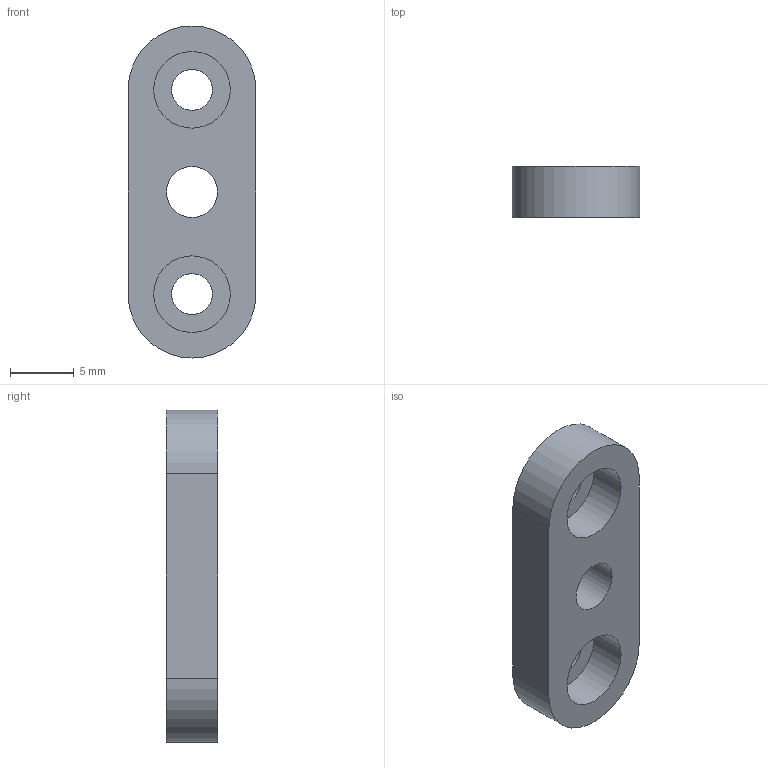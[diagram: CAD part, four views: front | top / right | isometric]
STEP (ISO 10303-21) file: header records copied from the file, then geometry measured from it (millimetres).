
FILE_DESCRIPTION(/* description */ (''),/* implementation_level */ '2;1');
FILE_NAME(/* name */ '4-35-1 Bearing clamp.step',/* time_stamp */ '2025-05-10T22:20:06+02:00',/* author */ (''),/* organization */ (''),/* preprocessor_version */ 'ST-DEVELOPER v20.1',/* originating_system */ 'Autodesk Translation Framework v14.4.0.0',/* authorisation */ '');
FILE_SCHEMA (('AUTOMOTIVE_DESIGN { 1 0 10303 214 3 1 1 }'));
Length unit declared in the file: millimetre
Products named in the file (1): Bearing clamp
Bounding box: 10 x 4 x 26 mm (x, y, z)
Volume: 718.2 mm3; surface area: 856.9 mm2
Topology: 1 solids, 1 shells, 13 faces, 27 edges, 18 vertices
Faces by surface type: cylinder 7, plane 6
Full cylindrical faces by diameter (mm): 3.2 x2, 4 x1, 6 x2
Entity records: 407 total; most frequent: DIRECTION 69, CARTESIAN_POINT 59, ORIENTED_EDGE 54, AXIS2_PLACEMENT_3D 28, EDGE_CURVE 27, EDGE_LOOP 21, VERTEX_POINT 18, CIRCLE 14
